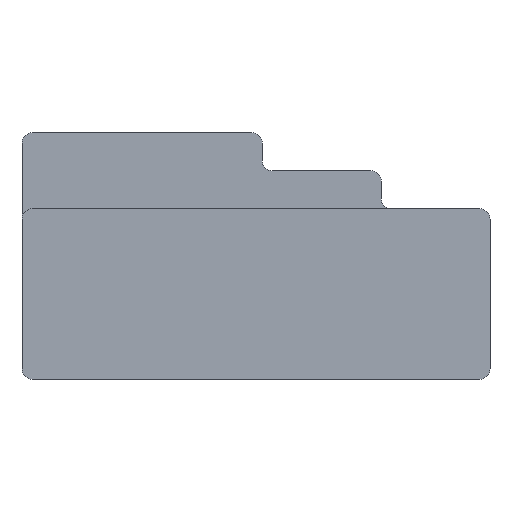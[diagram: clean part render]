
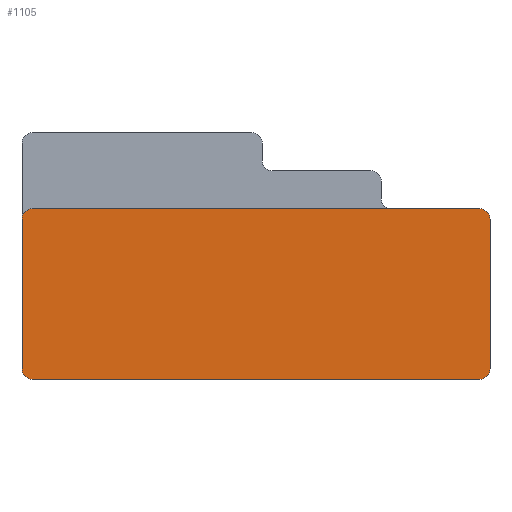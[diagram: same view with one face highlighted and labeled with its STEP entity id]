
A CAD part, front view. The second image highlights one B-rep face of the part: STEP entity #1105.
In plain terms, the highlighted planar face has unit normal (0, -1, 0).
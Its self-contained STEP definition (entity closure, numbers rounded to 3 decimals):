
#200=CARTESIAN_POINT('',(-10.9,-11.6,7.8));
#201=DIRECTION('',(0.,-1.,0.));
#202=DIRECTION('',(0.,0.,1.));
#203=AXIS2_PLACEMENT_3D('',#200,#201,#202);
#205=CARTESIAN_POINT('',(10.9,-11.6,7.8));
#206=DIRECTION('',(0.,-1.,0.));
#207=DIRECTION('',(1.,0.,0.));
#208=AXIS2_PLACEMENT_3D('',#205,#206,#207);
#210=CARTESIAN_POINT('',(10.9,-11.6,0.5));
#211=DIRECTION('',(0.,-1.,0.));
#212=DIRECTION('',(0.,0.,-1.));
#213=AXIS2_PLACEMENT_3D('',#210,#211,#212);
#215=CARTESIAN_POINT('',(-10.9,-11.6,0.5));
#216=DIRECTION('',(0.,-1.,0.));
#217=DIRECTION('',(-1.,0.,0.));
#218=AXIS2_PLACEMENT_3D('',#215,#216,#217);
#220=DIRECTION('',(0.,0.,1.));
#221=VECTOR('',#220,7.3);
#222=CARTESIAN_POINT('',(-11.4,-11.6,0.5));
#223=LINE('',#222,#221);
#308=DIRECTION('',(1.,0.,0.));
#309=VECTOR('',#308,21.8);
#310=CARTESIAN_POINT('',(-10.9,-11.6,8.3));
#311=LINE('',#310,#309);
#500=DIRECTION('',(1.,0.,0.));
#501=VECTOR('',#500,21.8);
#502=CARTESIAN_POINT('',(-10.9,-11.6,0.));
#503=LINE('',#502,#501);
#570=DIRECTION('',(0.,0.,1.));
#571=VECTOR('',#570,7.3);
#572=CARTESIAN_POINT('',(11.4,-11.6,0.5));
#573=LINE('',#572,#571);
#716=CARTESIAN_POINT('',(-10.9,-11.6,8.3));
#717=CARTESIAN_POINT('',(-11.4,-11.6,7.8));
#718=VERTEX_POINT('',#716);
#719=VERTEX_POINT('',#717);
#744=CARTESIAN_POINT('',(11.4,-11.6,7.8));
#745=VERTEX_POINT('',#744);
#746=CARTESIAN_POINT('',(10.9,-11.6,8.3));
#747=VERTEX_POINT('',#746);
#748=CARTESIAN_POINT('',(10.9,-11.6,0.));
#749=CARTESIAN_POINT('',(11.4,-11.6,0.5));
#750=VERTEX_POINT('',#748);
#751=VERTEX_POINT('',#749);
#760=CARTESIAN_POINT('',(-11.4,-11.6,0.5));
#761=VERTEX_POINT('',#760);
#762=CARTESIAN_POINT('',(-10.9,-11.6,0.));
#763=VERTEX_POINT('',#762);
#1083=CARTESIAN_POINT('',(-11.4,-11.6,0.));
#1084=DIRECTION('',(0.,-1.,0.));
#1085=DIRECTION('',(1.,0.,0.));
#1086=AXIS2_PLACEMENT_3D('',#1083,#1084,#1085);
#1087=PLANE('',#1086);
#1089=ORIENTED_EDGE('',*,*,#1088,.F.);
#1091=ORIENTED_EDGE('',*,*,#1090,.T.);
#1093=ORIENTED_EDGE('',*,*,#1092,.F.);
#1095=ORIENTED_EDGE('',*,*,#1094,.F.);
#1096=ORIENTED_EDGE('',*,*,#1073,.F.);
#1098=ORIENTED_EDGE('',*,*,#1097,.F.);
#1100=ORIENTED_EDGE('',*,*,#1099,.F.);
#1102=ORIENTED_EDGE('',*,*,#1101,.T.);
#1103=EDGE_LOOP('',(#1089,#1091,#1093,#1095,#1096,#1098,#1100,#1102));
#1104=FACE_OUTER_BOUND('',#1103,.F.);
#1105=ADVANCED_FACE('',(#1104),#1087,.T.);
#204=CIRCLE('',#203,0.5);
#209=CIRCLE('',#208,0.5);
#214=CIRCLE('',#213,0.5);
#219=CIRCLE('',#218,0.5);
#1073=EDGE_CURVE('',#750,#751,#214,.T.);
#1088=EDGE_CURVE('',#718,#719,#204,.T.);
#1090=EDGE_CURVE('',#718,#747,#311,.T.);
#1092=EDGE_CURVE('',#745,#747,#209,.T.);
#1094=EDGE_CURVE('',#751,#745,#573,.T.);
#1097=EDGE_CURVE('',#763,#750,#503,.T.);
#1099=EDGE_CURVE('',#761,#763,#219,.T.);
#1101=EDGE_CURVE('',#761,#719,#223,.T.);
